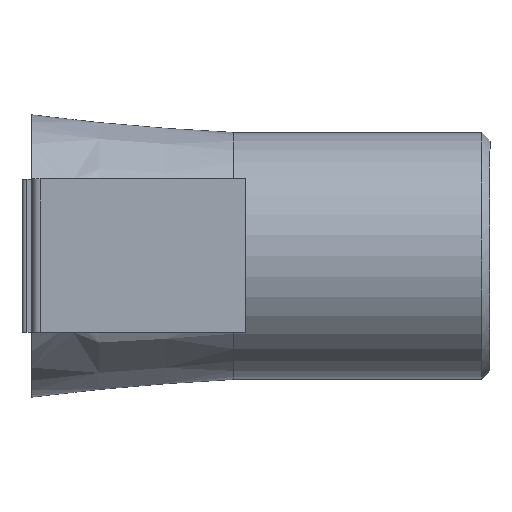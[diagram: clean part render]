
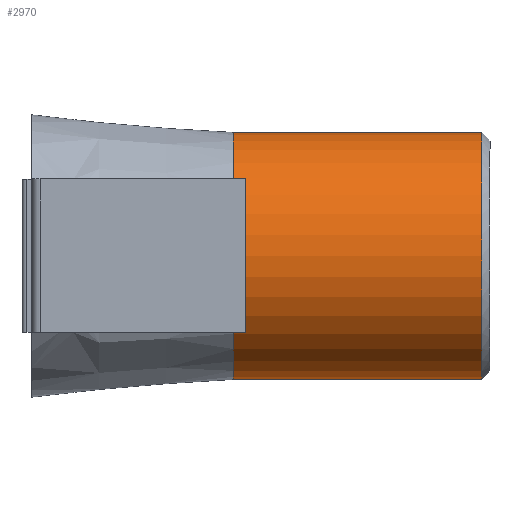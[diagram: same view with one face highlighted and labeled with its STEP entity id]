
A CAD part, top view. The second image highlights one B-rep face of the part: STEP entity #2970.
In plain terms, the highlighted cylindrical face has radius 7.5 mm (diameter 15 mm), a partial arc.
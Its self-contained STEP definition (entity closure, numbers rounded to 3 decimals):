
#99=CYLINDRICAL_SURFACE('',#3162,7.5);
#175=FACE_OUTER_BOUND('',#337,.T.);
#337=EDGE_LOOP('',(#2032,#2033,#2034,#2035));
#507=CIRCLE('',#3154,7.5);
#515=CIRCLE('',#3163,7.5);
#597=LINE('',#4141,#918);
#623=LINE('',#4236,#944);
#918=VECTOR('',#3381,10.);
#944=VECTOR('',#3433,10.);
#1242=VERTEX_POINT('',#4138);
#1243=VERTEX_POINT('',#4140);
#1269=VERTEX_POINT('',#4198);
#1281=VERTEX_POINT('',#4234);
#1542=EDGE_CURVE('',#1243,#1242,#597,.T.);
#1569=EDGE_CURVE('',#1243,#1269,#507,.T.);
#1582=EDGE_CURVE('',#1281,#1242,#515,.T.);
#1583=EDGE_CURVE('',#1281,#1269,#623,.T.);
#2032=ORIENTED_EDGE('',*,*,#1542,.T.);
#2033=ORIENTED_EDGE('',*,*,#1582,.F.);
#2034=ORIENTED_EDGE('',*,*,#1583,.T.);
#2035=ORIENTED_EDGE('',*,*,#1569,.F.);
#2970=ADVANCED_FACE('',(#175),#99,.T.);
#3154=AXIS2_PLACEMENT_3D('',#4199,#3413,#3414);
#3162=AXIS2_PLACEMENT_3D('',#4233,#3429,#3430);
#3163=AXIS2_PLACEMENT_3D('',#4235,#3431,#3432);
#3381=DIRECTION('',(1.,0.,0.));
#3413=DIRECTION('center_axis',(-1.,0.,0.));
#3414=DIRECTION('ref_axis',(0.,-1.,0.));
#3429=DIRECTION('center_axis',(-1.,0.,0.));
#3430=DIRECTION('ref_axis',(0.,-1.,0.));
#3431=DIRECTION('center_axis',(1.,0.,0.));
#3432=DIRECTION('ref_axis',(0.,1.,0.));
#3433=DIRECTION('',(-1.,0.,0.));
#4138=CARTESIAN_POINT('',(26.5,-3.005,-6.872));
#4140=CARTESIAN_POINT('',(11.43,-3.005,-6.872));
#4141=CARTESIAN_POINT('',(19.215,-3.005,-6.872));
#4198=CARTESIAN_POINT('',(11.43,3.005,-6.872));
#4199=CARTESIAN_POINT('Origin',(11.43,0.,
0.));
#4233=CARTESIAN_POINT('Origin',(19.215,0.,
0.));
#4234=CARTESIAN_POINT('',(26.5,3.005,-6.872));
#4235=CARTESIAN_POINT('Origin',(26.5,0.,
0.));
#4236=CARTESIAN_POINT('',(19.215,3.005,-6.872));
